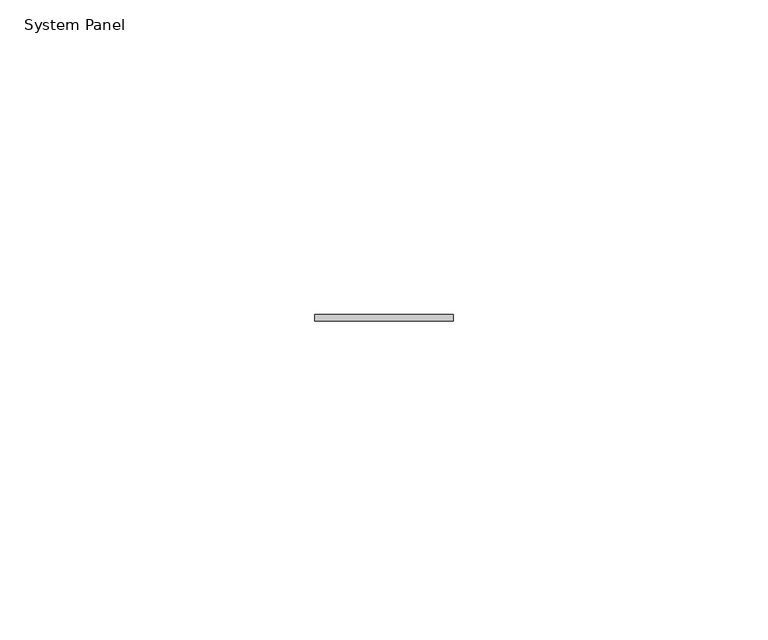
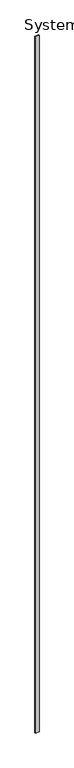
"""IFC4 building model written with IfcOpenShell, lengths in millimetres: plate geometry, System Panel : Stratco_Hiland_Interlock_Panel."""

from ifc_helpers import new_model, si_unit, origin, origin_with_axes, place, context, project, spatial, polyline, outline, extrude, source, transform, mapped, element, save


def system_panel_14b4a6d5(model_context):
    return source(origin(), model_context, "Body", "SweptSolid", [
        extrude(outline(polyline([(10.9999998, 24.0), (-10.9999998, 24.0), (-10.9999998, 25.0), (10.9999998, 25.0), (10.9999998, 24.0)])), origin_with_axes(), (0.0, 0.0, 1.0), 4000.0),
    ])


if __name__ == "__main__":
    model = new_model("IFC4")
    model_context = context("Model", 3, world=origin())
    ifc_project = project(units=[si_unit("LENGTHUNIT", "METRE", prefix="MILLI")], contexts=[model_context])
    site = spatial("IfcSite", under=ifc_project)
    building = spatial("IfcBuilding", under=site)
    placement = place(None, origin())
    system_panel_shape = system_panel_14b4a6d5(model_context)
    element("IfcPlate", 1, ObjectType="System Panel : Stratco_Hiland_Interlock_Panel", at=placement, inside=building, context=model_context, shape_type="MappedRepresentation", body=[
        mapped(system_panel_shape, transform((0.0, 0.0, 0.0), x_axis=(1.0, 0.0, 0.0), y_axis=(0.0, 1.0, 0.0), z_axis=(0.0, 0.0, 1.0))),
    ])
    save(model, "model.ifc")
